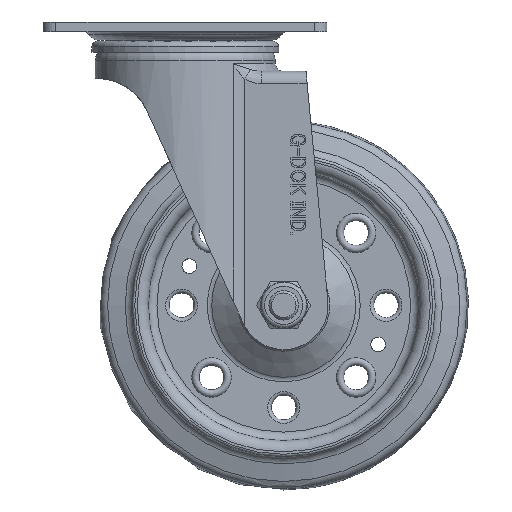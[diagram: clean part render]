
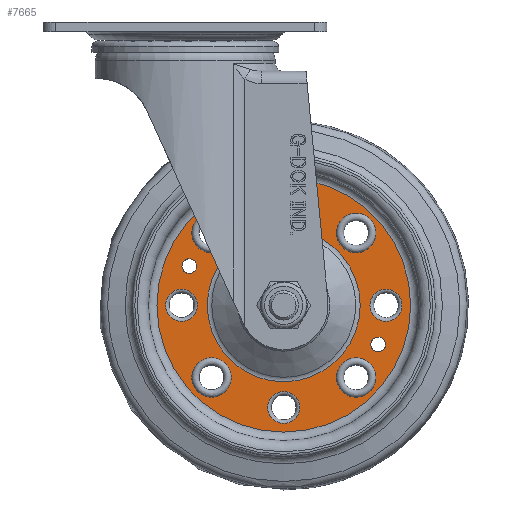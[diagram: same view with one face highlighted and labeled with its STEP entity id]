
A CAD part, left-side view. The second image highlights one B-rep face of the part: STEP entity #7665.
In plain terms, the highlighted planar face has unit normal (-1, 0, 0).
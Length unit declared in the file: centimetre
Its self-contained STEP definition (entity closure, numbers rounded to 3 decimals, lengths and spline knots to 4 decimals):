
#1426=PLANE('',#8267);
#1905=FACE_BOUND('',#2737,.T.);
#1906=FACE_BOUND('',#2738,.T.);
#1907=FACE_BOUND('',#2739,.T.);
#1908=FACE_BOUND('',#2740,.T.);
#1909=FACE_BOUND('',#2741,.T.);
#1910=FACE_BOUND('',#2742,.T.);
#1911=FACE_BOUND('',#2743,.T.);
#1912=FACE_BOUND('',#2744,.T.);
#1913=FACE_BOUND('',#2745,.T.);
#1914=FACE_BOUND('',#2746,.T.);
#1915=FACE_BOUND('',#2747,.T.);
#2149=FACE_OUTER_BOUND('',#2736,.T.);
#2736=EDGE_LOOP('',(#5615));
#2737=EDGE_LOOP('',(#5616));
#2738=EDGE_LOOP('',(#5617));
#2739=EDGE_LOOP('',(#5618));
#2740=EDGE_LOOP('',(#5619));
#2741=EDGE_LOOP('',(#5620));
#2742=EDGE_LOOP('',(#5621));
#2743=EDGE_LOOP('',(#5622));
#2744=EDGE_LOOP('',(#5623));
#2745=EDGE_LOOP('',(#5624));
#2746=EDGE_LOOP('',(#5625));
#2747=EDGE_LOOP('',(#5626));
#3374=CIRCLE('',#8156,0.8);
#3377=CIRCLE('',#8162,0.8);
#3380=CIRCLE('',#8168,0.8);
#3383=CIRCLE('',#8174,0.8);
#3408=CIRCLE('',#8224,0.3);
#3409=CIRCLE('',#8226,0.3);
#3411=CIRCLE('',#8229,0.65);
#3414=CIRCLE('',#8235,0.65);
#3417=CIRCLE('',#8241,0.65);
#3420=CIRCLE('',#8247,0.65);
#3429=CIRCLE('',#8266,3.1053);
#3430=CIRCLE('',#8268,5.15);
#3671=VERTEX_POINT('',#10951);
#3674=VERTEX_POINT('',#10960);
#3677=VERTEX_POINT('',#10969);
#3680=VERTEX_POINT('',#10978);
#3705=VERTEX_POINT('',#11053);
#3706=VERTEX_POINT('',#11056);
#3708=VERTEX_POINT('',#11061);
#3711=VERTEX_POINT('',#11070);
#3714=VERTEX_POINT('',#11079);
#3717=VERTEX_POINT('',#11088);
#3726=VERTEX_POINT('',#11116);
#3727=VERTEX_POINT('',#11119);
#4436=EDGE_CURVE('',#3671,#3671,#3374,.T.);
#4439=EDGE_CURVE('',#3674,#3674,#3377,.T.);
#4442=EDGE_CURVE('',#3677,#3677,#3380,.T.);
#4445=EDGE_CURVE('',#3680,#3680,#3383,.T.);
#4470=EDGE_CURVE('',#3705,#3705,#3408,.T.);
#4471=EDGE_CURVE('',#3706,#3706,#3409,.T.);
#4473=EDGE_CURVE('',#3708,#3708,#3411,.T.);
#4476=EDGE_CURVE('',#3711,#3711,#3414,.T.);
#4479=EDGE_CURVE('',#3714,#3714,#3417,.T.);
#4482=EDGE_CURVE('',#3717,#3717,#3420,.T.);
#4491=EDGE_CURVE('',#3726,#3726,#3429,.T.);
#4492=EDGE_CURVE('',#3727,#3727,#3430,.T.);
#5615=ORIENTED_EDGE('',*,*,#4492,.F.);
#5616=ORIENTED_EDGE('',*,*,#4436,.T.);
#5617=ORIENTED_EDGE('',*,*,#4439,.T.);
#5618=ORIENTED_EDGE('',*,*,#4442,.T.);
#5619=ORIENTED_EDGE('',*,*,#4445,.T.);
#5620=ORIENTED_EDGE('',*,*,#4470,.T.);
#5621=ORIENTED_EDGE('',*,*,#4471,.T.);
#5622=ORIENTED_EDGE('',*,*,#4473,.T.);
#5623=ORIENTED_EDGE('',*,*,#4476,.T.);
#5624=ORIENTED_EDGE('',*,*,#4479,.T.);
#5625=ORIENTED_EDGE('',*,*,#4482,.T.);
#5626=ORIENTED_EDGE('',*,*,#4491,.T.);
#7665=ADVANCED_FACE('',(#2149,#1905,#1906,#1907,#1908,#1909,#1910,#1911,
#1912,#1913,#1914,#1915),#1426,.T.);
#8156=AXIS2_PLACEMENT_3D('',#10952,#8941,#8942);
#8162=AXIS2_PLACEMENT_3D('',#10961,#8953,#8954);
#8168=AXIS2_PLACEMENT_3D('',#10970,#8965,#8966);
#8174=AXIS2_PLACEMENT_3D('',#10979,#8977,#8978);
#8224=AXIS2_PLACEMENT_3D('',#11054,#9077,#9078);
#8226=AXIS2_PLACEMENT_3D('',#11057,#9081,#9082);
#8229=AXIS2_PLACEMENT_3D('',#11062,#9087,#9088);
#8235=AXIS2_PLACEMENT_3D('',#11071,#9099,#9100);
#8241=AXIS2_PLACEMENT_3D('',#11080,#9111,#9112);
#8247=AXIS2_PLACEMENT_3D('',#11089,#9123,#9124);
#8266=AXIS2_PLACEMENT_3D('',#11117,#9161,#9162);
#8267=AXIS2_PLACEMENT_3D('',#11118,#9163,#9164);
#8268=AXIS2_PLACEMENT_3D('',#11120,#9165,#9166);
#8941=DIRECTION('center_axis',(1.,0.,0.));
#8942=DIRECTION('ref_axis',(0.,0.,-1.));
#8953=DIRECTION('center_axis',(1.,0.,0.));
#8954=DIRECTION('ref_axis',(0.,0.,-1.));
#8965=DIRECTION('center_axis',(1.,0.,0.));
#8966=DIRECTION('ref_axis',(0.,0.,-1.));
#8977=DIRECTION('center_axis',(1.,0.,0.));
#8978=DIRECTION('ref_axis',(0.,0.,-1.));
#9077=DIRECTION('center_axis',(1.,0.,0.));
#9078=DIRECTION('ref_axis',(0.,0.,1.));
#9081=DIRECTION('center_axis',(1.,0.,0.));
#9082=DIRECTION('ref_axis',(0.,0.,1.));
#9087=DIRECTION('center_axis',(1.,0.,0.));
#9088=DIRECTION('ref_axis',(0.,1.,0.));
#9099=DIRECTION('center_axis',(1.,0.,0.));
#9100=DIRECTION('ref_axis',(0.,0.,-1.));
#9111=DIRECTION('center_axis',(1.,0.,0.));
#9112=DIRECTION('ref_axis',(0.,-1.,0.));
#9123=DIRECTION('center_axis',(1.,0.,0.));
#9124=DIRECTION('ref_axis',(0.,0.,1.));
#9161=DIRECTION('center_axis',(1.,0.,0.));
#9162=DIRECTION('ref_axis',(0.,1.,0.));
#9163=DIRECTION('center_axis',(-1.,0.,0.));
#9164=DIRECTION('ref_axis',(0.,0.,1.));
#9165=DIRECTION('center_axis',(1.,0.,0.));
#9166=DIRECTION('ref_axis',(0.,1.,0.));
#10951=CARTESIAN_POINT('',(-0.15,-6.3688,-8.2175));
#10952=CARTESIAN_POINT('Origin',(-0.15,-6.9345,-7.6518));
#10960=CARTESIAN_POINT('',(-0.15,-6.3688,-12.9551));
#10961=CARTESIAN_POINT('Origin',(-0.15,-6.9345,-13.5208));
#10969=CARTESIAN_POINT('',(-0.15,-1.6312,-12.9551));
#10970=CARTESIAN_POINT('Origin',(-0.15,-1.0655,-13.5208));
#10978=CARTESIAN_POINT('',(-0.15,-1.6312,-8.2175));
#10979=CARTESIAN_POINT('Origin',(-0.15,-1.0655,-7.6518));
#11053=CARTESIAN_POINT('',(-0.15,-0.1659,-9.2982));
#11054=CARTESIAN_POINT('Origin',(-0.15,-0.1659,-8.9982));
#11056=CARTESIAN_POINT('',(-0.15,-7.8341,-12.4744));
#11057=CARTESIAN_POINT('Origin',(-0.15,-7.8341,-12.1744));
#11061=CARTESIAN_POINT('',(-0.15,-4.65,-14.7363));
#11062=CARTESIAN_POINT('Origin',(-0.15,-4.,-14.7363));
#11070=CARTESIAN_POINT('',(-0.15,-8.15,-9.9363));
#11071=CARTESIAN_POINT('Origin',(-0.15,-8.15,-10.5863));
#11079=CARTESIAN_POINT('',(-0.15,-3.35,-6.4363));
#11080=CARTESIAN_POINT('Origin',(-0.15,-4.,-6.4363));
#11088=CARTESIAN_POINT('',(-0.15,0.15,-11.2363));
#11089=CARTESIAN_POINT('Origin',(-0.15,0.15,-10.5863));
#11116=CARTESIAN_POINT('',(-0.15,-0.8947,-10.5863));
#11117=CARTESIAN_POINT('Origin',(-0.15,-4.,-10.5863));
#11118=CARTESIAN_POINT('Origin',(-0.15,0.1276,-10.5863));
#11119=CARTESIAN_POINT('',(-0.15,1.15,-10.5863));
#11120=CARTESIAN_POINT('Origin',(-0.15,-4.,-10.5863));
